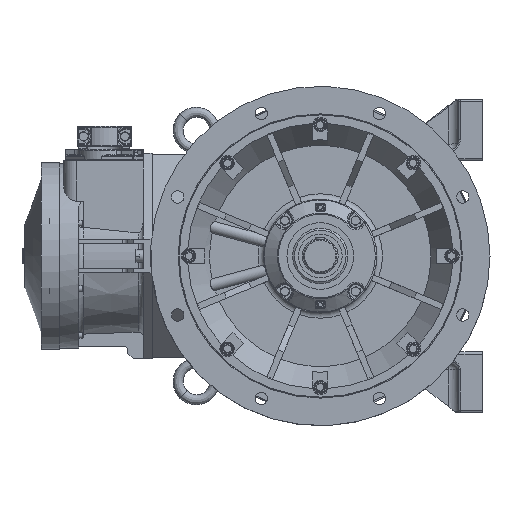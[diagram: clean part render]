
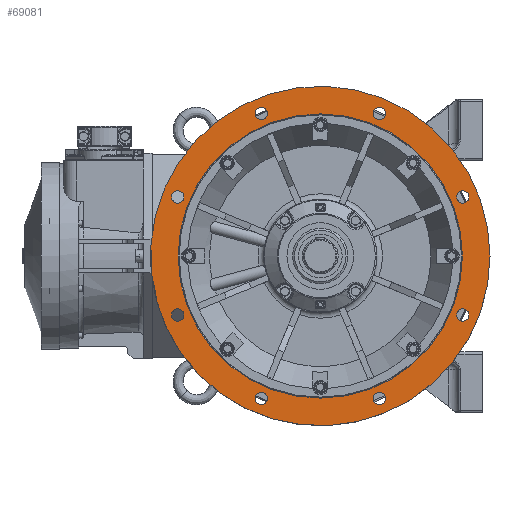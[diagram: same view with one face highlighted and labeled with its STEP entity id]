
A CAD part, left-side view. The second image highlights one B-rep face of the part: STEP entity #69081.
In plain terms, the highlighted planar face has unit normal (-1, 0, 0).
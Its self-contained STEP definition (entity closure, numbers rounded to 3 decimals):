
#21780=ORIENTED_EDGE('',*,*,#29394,.F.);
#21781=ORIENTED_EDGE('',*,*,#29396,.F.);
#21782=ORIENTED_EDGE('',*,*,#29398,.F.);
#21783=ORIENTED_EDGE('',*,*,#29400,.F.);
#21784=ORIENTED_EDGE('',*,*,#29402,.F.);
#21785=ORIENTED_EDGE('',*,*,#29404,.F.);
#21786=ORIENTED_EDGE('',*,*,#29406,.F.);
#21787=ORIENTED_EDGE('',*,*,#29408,.F.);
#21788=ORIENTED_EDGE('',*,*,#29691,.F.);
#21789=ORIENTED_EDGE('',*,*,#29692,.T.);
#29394=EDGE_CURVE('',#34287,#34287,#36949,.T.);
#29396=EDGE_CURVE('',#34289,#34289,#36951,.T.);
#29398=EDGE_CURVE('',#34291,#34291,#36953,.T.);
#29400=EDGE_CURVE('',#34293,#34293,#36955,.T.);
#29402=EDGE_CURVE('',#34295,#34295,#36957,.T.);
#29404=EDGE_CURVE('',#34297,#34297,#36959,.T.);
#29406=EDGE_CURVE('',#34299,#34299,#36961,.T.);
#29408=EDGE_CURVE('',#34301,#34301,#36963,.T.);
#29691=EDGE_CURVE('',#34489,#34489,#37054,.T.);
#29692=EDGE_CURVE('',#34490,#34490,#37055,.F.);
#34287=VERTEX_POINT('',#111658);
#34289=VERTEX_POINT('',#111663);
#34291=VERTEX_POINT('',#111668);
#34293=VERTEX_POINT('',#111673);
#34295=VERTEX_POINT('',#111678);
#34297=VERTEX_POINT('',#111683);
#34299=VERTEX_POINT('',#111688);
#34301=VERTEX_POINT('',#111693);
#34489=VERTEX_POINT('',#112506);
#34490=VERTEX_POINT('',#112508);
#36949=CIRCLE('',#73854,12.);
#36951=CIRCLE('',#73857,12.);
#36953=CIRCLE('',#73860,12.);
#36955=CIRCLE('',#73863,12.);
#36957=CIRCLE('',#73866,12.);
#36959=CIRCLE('',#73869,12.);
#36961=CIRCLE('',#73872,12.);
#36963=CIRCLE('',#73875,12.);
#37054=CIRCLE('',#74074,276.402);
#37055=CIRCLE('',#74075,330.);
#40244=EDGE_LOOP('',(#21780));
#40245=EDGE_LOOP('',(#21781));
#40246=EDGE_LOOP('',(#21782));
#40247=EDGE_LOOP('',(#21783));
#40248=EDGE_LOOP('',(#21784));
#40249=EDGE_LOOP('',(#21785));
#40250=EDGE_LOOP('',(#21786));
#40251=EDGE_LOOP('',(#21787));
#40252=EDGE_LOOP('',(#21788));
#40253=EDGE_LOOP('',(#21789));
#43803=FACE_BOUND('',#40244,.T.);
#43804=FACE_BOUND('',#40245,.T.);
#43805=FACE_BOUND('',#40246,.T.);
#43806=FACE_BOUND('',#40247,.T.);
#43807=FACE_BOUND('',#40248,.T.);
#43808=FACE_BOUND('',#40249,.T.);
#43809=FACE_BOUND('',#40250,.T.);
#43810=FACE_BOUND('',#40251,.T.);
#43811=FACE_BOUND('',#40252,.T.);
#43812=FACE_BOUND('',#40253,.T.);
#45743=PLANE('',#74073);
#69081=ADVANCED_FACE('',(#43803,#43804,#43805,#43806,#43807,#43808,#43809,
#43810,#43811,#43812),#45743,.F.);
#73854=AXIS2_PLACEMENT_3D('',#111657,#86413,#86414);
#73857=AXIS2_PLACEMENT_3D('',#111662,#86419,#86420);
#73860=AXIS2_PLACEMENT_3D('',#111667,#86425,#86426);
#73863=AXIS2_PLACEMENT_3D('',#111672,#86431,#86432);
#73866=AXIS2_PLACEMENT_3D('',#111677,#86437,#86438);
#73869=AXIS2_PLACEMENT_3D('',#111682,#86443,#86444);
#73872=AXIS2_PLACEMENT_3D('',#111687,#86449,#86450);
#73875=AXIS2_PLACEMENT_3D('',#111692,#86455,#86456);
#74073=AXIS2_PLACEMENT_3D('',#112504,#86977,#86978);
#74074=AXIS2_PLACEMENT_3D('',#112505,#86979,#86980);
#74075=AXIS2_PLACEMENT_3D('',#112507,#86981,#86982);
#86413=DIRECTION('',(-1.,0.,0.));
#86414=DIRECTION('',(0.,0.,1.));
#86419=DIRECTION('',(-1.,0.,0.));
#86420=DIRECTION('',(0.,0.,1.));
#86425=DIRECTION('',(-1.,0.,0.));
#86426=DIRECTION('',(0.,0.,1.));
#86431=DIRECTION('',(-1.,0.,0.));
#86432=DIRECTION('',(0.,0.,1.));
#86437=DIRECTION('',(-1.,0.,0.));
#86438=DIRECTION('',(0.,0.,1.));
#86443=DIRECTION('',(-1.,0.,0.));
#86444=DIRECTION('',(0.,0.,1.));
#86449=DIRECTION('',(-1.,0.,0.));
#86450=DIRECTION('',(0.,0.,1.));
#86455=DIRECTION('',(-1.,0.,0.));
#86456=DIRECTION('',(0.,0.,1.));
#86977=DIRECTION('',(1.,0.,0.));
#86978=DIRECTION('',(0.,-1.,0.));
#86979=DIRECTION('',(-1.,0.,0.));
#86980=DIRECTION('',(0.,1.,0.));
#86981=DIRECTION('',(1.,0.,0.));
#86982=DIRECTION('',(0.,-1.,0.));
#111657=CARTESIAN_POINT('',(-89.5,114.805,277.164));
#111658=CARTESIAN_POINT('',(-89.5,114.805,289.164));
#111662=CARTESIAN_POINT('',(-89.5,-114.805,277.164));
#111663=CARTESIAN_POINT('',(-89.5,-114.805,289.164));
#111667=CARTESIAN_POINT('',(-89.5,-277.164,114.805));
#111668=CARTESIAN_POINT('',(-89.5,-277.164,126.805));
#111672=CARTESIAN_POINT('',(-89.5,-277.164,-114.805));
#111673=CARTESIAN_POINT('',(-89.5,-277.164,-102.805));
#111677=CARTESIAN_POINT('',(-89.5,-114.805,-277.164));
#111678=CARTESIAN_POINT('',(-89.5,-114.805,-265.164));
#111682=CARTESIAN_POINT('',(-89.5,114.805,-277.164));
#111683=CARTESIAN_POINT('',(-89.5,114.805,-265.164));
#111687=CARTESIAN_POINT('',(-89.5,277.164,-114.805));
#111688=CARTESIAN_POINT('',(-89.5,277.164,-102.805));
#111692=CARTESIAN_POINT('',(-89.5,277.164,114.805));
#111693=CARTESIAN_POINT('',(-89.5,277.164,126.805));
#112504=CARTESIAN_POINT('',(-89.5,276.402,0.));
#112505=CARTESIAN_POINT('',(-89.5,0.,0.));
#112506=CARTESIAN_POINT('',(-89.5,276.402,0.));
#112507=CARTESIAN_POINT('',(-89.5,0.,0.));
#112508=CARTESIAN_POINT('',(-89.5,-330.,0.));
